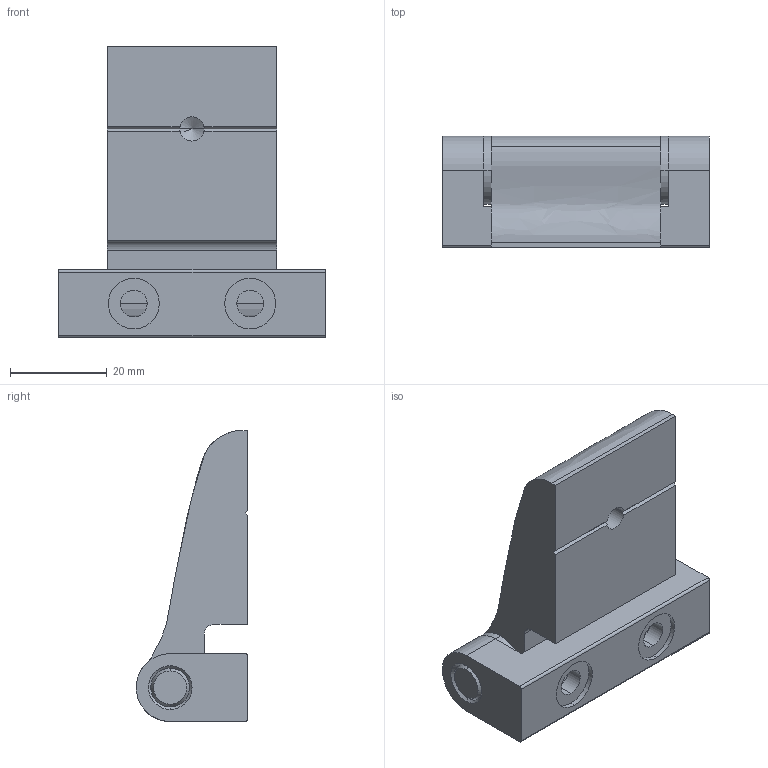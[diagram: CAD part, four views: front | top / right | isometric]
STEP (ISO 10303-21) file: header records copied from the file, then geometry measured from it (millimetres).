
FILE_DESCRIPTION (( 'STEP AP203' ), '1' );
FILE_NAME ('013.100.028.STEP', '2021-03-22T07:36:25', ( '' ), ( '' ), 'SwSTEP 2.0', 'SolidWorks 2018', '' );
FILE_SCHEMA (( 'CONFIG_CONTROL_DESIGN' ));
Length unit declared in the file: millimetre
Products named in the file (5): 013.100.028; 013.000.001C; 013.000.001A; boccola per 013.100.027; 013.000.002B
Assembly tree (5 placements, depth 2):
  013.100.028
    013.000.001A
    013.000.002B
    013.000.001C
    boccola per 013.100.027  x2
Bounding box: 55 x 23 x 60 mm (x, y, z)
Volume: 33599.7 mm3; surface area: 15465.2 mm2
Topology: 5 solids, 5 shells, 234 faces, 591 edges, 371 vertices
Faces by surface type: plane 91, cylinder 62, bspline 61, cone 20
Entity records: 8581 total; most frequent: CARTESIAN_POINT 3157, ORIENTED_EDGE 1142, DIRECTION 842, EDGE_CURVE 571, AXIS2_PLACEMENT_3D 376, VERTEX_POINT 359, B_SPLINE_CURVE_WITH_KNOTS 273, EDGE_LOOP 242
